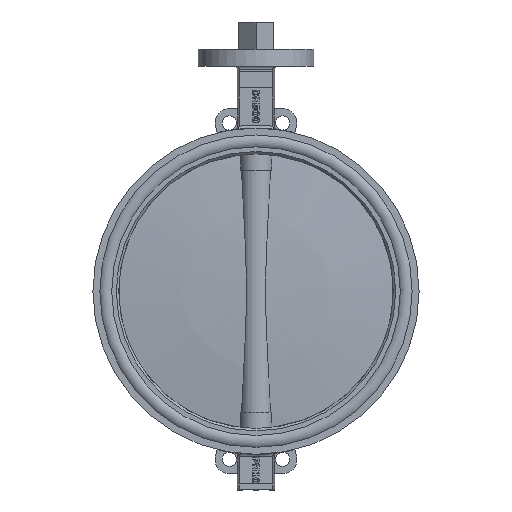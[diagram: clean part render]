
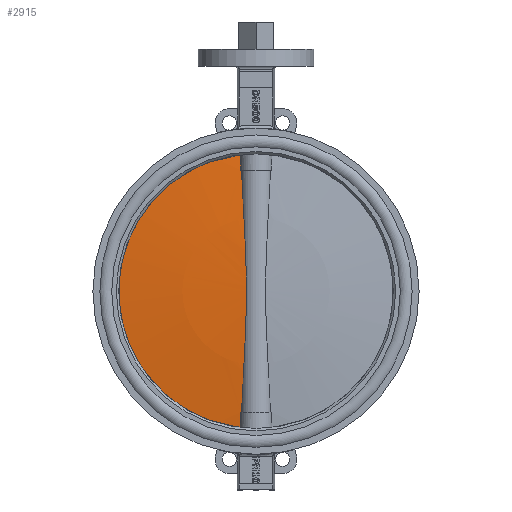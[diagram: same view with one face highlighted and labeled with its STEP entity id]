
A CAD part, left-side view. The second image highlights one B-rep face of the part: STEP entity #2915.
In plain terms, the highlighted spherical face has radius 2200.11 mm.
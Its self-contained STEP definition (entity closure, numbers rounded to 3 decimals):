
#2915=ADVANCED_FACE('',(#9275),#9277,.T.);
#9275=FACE_BOUND('',#9276,.T.);
#9276=EDGE_LOOP('',(#12264,#12265,#12266,#12267,#12268,#12269));
#9277=SPHERICAL_SURFACE('',#9278,2200.107);
#9278=AXIS2_PLACEMENT_3D('',#9279,#9280,#9281);
#9279=CARTESIAN_POINT('',(0.,-2177.107,0.));
#9280=DIRECTION('',(0.,-1.,0.));
#9281=DIRECTION('',(0.,0.,1.));
#12264=ORIENTED_EDGE('',*,*,#13447,.F.);
#12265=ORIENTED_EDGE('',*,*,#13459,.F.);
#12266=ORIENTED_EDGE('',*,*,#13460,.T.);
#12267=ORIENTED_EDGE('',*,*,#13461,.F.);
#12268=ORIENTED_EDGE('',*,*,#13430,.F.);
#12269=ORIENTED_EDGE('',*,*,#13458,.T.);
#13430=EDGE_CURVE('',#15207,#15208,#15209,.F.);
#13447=EDGE_CURVE('',#15240,#15225,#15242,.T.);
#13458=EDGE_CURVE('',#15207,#15225,#15257,.T.);
#13459=EDGE_CURVE('',#15258,#15240,#15259,.T.);
#13460=EDGE_CURVE('',#15258,#15260,#15261,.T.);
#13461=EDGE_CURVE('',#15208,#15260,#15262,.T.);
#15207=VERTEX_POINT('',#21501);
#15208=VERTEX_POINT('',#21502);
#15209=B_SPLINE_CURVE_WITH_KNOTS('',3,
(#21503,#21504,#21505,#21506,#21507,#21508,#21509,#21510,#21511,#21512,#21513),
.UNSPECIFIED.,.F.,.F.,
(4,1,1,1,1,1,1,1,4),
(0.,0.124,0.249,0.374,0.499,0.624,
0.749,0.874,1.),
.UNSPECIFIED.);
#15225=VERTEX_POINT('',#21641);
#15240=VERTEX_POINT('',#21765);
#15242=B_SPLINE_CURVE_WITH_KNOTS('',3,
(#21770,#21771,#21772,#21773,#21774,#21775,#21776,#21777,#21778,#21779,#21780),
.UNSPECIFIED.,.F.,.F.,
(4,1,1,1,1,1,1,1,4),
(0.,0.124,0.249,0.374,0.499,0.624,
0.749,0.874,1.),
.UNSPECIFIED.);
#15257=CIRCLE('',#21889,250.);
#15258=VERTEX_POINT('',#21893);
#15259=CIRCLE('',#21894,2189.043);
#15260=VERTEX_POINT('',#21898);
#15261=B_SPLINE_CURVE_WITH_KNOTS('',3,
(#21899,#21900,#21901,#21902,#21903,#21904,#21905,#21906,#21907,#21908,#21909,#21910,
#21911,#21912,#21913,#21914,#21915,#21916,#21917,#21918,#21919,#21920,#21921,#21922,
#21923,#21924,#21925,#21926,#21927,#21928,#21929,#21930,#21931,#21932,#21933,#21934),
.UNSPECIFIED.,.F.,.F.,
(4,1,1,1,1,1,1,1,1,1,1,1,1,1,1,1,1,1,1,1,1,1,1,1,1,1,1,1,1,1,1,1,1,4),
(0.,0.031,0.058,0.093,0.143,0.192,
0.231,0.262,0.291,0.318,0.338,
0.359,0.381,0.403,0.426,0.45,
0.475,0.5,0.5,0.526,0.553,
0.582,0.612,0.643,0.675,0.709,
0.743,0.777,0.813,0.849,0.886,
0.924,0.962,1.),
.UNSPECIFIED.);
#15262=CIRCLE('',#21935,2189.043);
#21501=CARTESIAN_POINT('',(28.865,8.75,248.328));
#21502=CARTESIAN_POINT('',(27.776,11.76,220.367));
#21503=CARTESIAN_POINT('',(27.776,11.76,220.367));
#21504=CARTESIAN_POINT('',(27.825,11.642,221.528));
#21505=CARTESIAN_POINT('',(27.924,11.405,223.85));
#21506=CARTESIAN_POINT('',(28.069,11.044,227.335));
#21507=CARTESIAN_POINT('',(28.21,10.677,230.824));
#21508=CARTESIAN_POINT('',(28.349,10.304,234.317));
#21509=CARTESIAN_POINT('',(28.484,9.925,237.815));
#21510=CARTESIAN_POINT('',(28.615,9.539,241.316));
#21511=CARTESIAN_POINT('',(28.743,9.148,244.821));
#21512=CARTESIAN_POINT('',(28.825,8.883,247.159));
#21513=CARTESIAN_POINT('',(28.865,8.75,248.328));
#21641=CARTESIAN_POINT('',(28.865,8.75,-248.328));
#21765=CARTESIAN_POINT('',(27.776,11.76,-220.367));
#21770=CARTESIAN_POINT('',(27.776,11.76,-220.367));
#21771=CARTESIAN_POINT('',(27.825,11.642,-221.528));
#21772=CARTESIAN_POINT('',(27.924,11.405,-223.85));
#21773=CARTESIAN_POINT('',(28.069,11.044,-227.335));
#21774=CARTESIAN_POINT('',(28.21,10.677,-230.824));
#21775=CARTESIAN_POINT('',(28.349,10.304,-234.317));
#21776=CARTESIAN_POINT('',(28.484,9.925,-237.815));
#21777=CARTESIAN_POINT('',(28.615,9.539,-241.316));
#21778=CARTESIAN_POINT('',(28.743,9.148,-244.821));
#21779=CARTESIAN_POINT('',(28.825,8.883,-247.159));
#21780=CARTESIAN_POINT('',(28.865,8.75,-248.328));
#21889=AXIS2_PLACEMENT_3D('',#21890,#21891,#21892);
#21890=CARTESIAN_POINT('',(0.,8.75,0.));
#21891=DIRECTION('',(0.,1.,0.));
#21892=DIRECTION('',(0.115,0.,0.993));
#21893=CARTESIAN_POINT('',(26.352,11.777,-220.367));
#21894=AXIS2_PLACEMENT_3D('',#21895,#21896,#21897);
#21895=CARTESIAN_POINT('',(0.,-2177.107,-220.367));
#21896=DIRECTION('',(0.,0.,-1.));
#21897=DIRECTION('',(0.012,1.,0.));
#21898=CARTESIAN_POINT('',(26.352,11.777,220.367));
#21899=CARTESIAN_POINT('',(26.352,11.777,-220.367));
#21900=CARTESIAN_POINT('',(26.149,12.23,-215.892));
#21901=CARTESIAN_POINT('',(25.753,13.057,-207.464));
#21902=CARTESIAN_POINT('',(25.074,14.321,-193.774));
#21903=CARTESIAN_POINT('',(24.223,15.732,-177.368));
#21904=CARTESIAN_POINT('',(23.16,17.264,-157.582));
#21905=CARTESIAN_POINT('',(22.071,18.623,-137.413));
#21906=CARTESIAN_POINT('',(21.155,19.647,-119.893));
#21907=CARTESIAN_POINT('',(20.436,20.39,-105.449));
#21908=CARTESIAN_POINT('',(19.839,20.97,-92.671));
#21909=CARTESIAN_POINT('',(19.353,21.417,-81.399));
#21910=CARTESIAN_POINT('',(18.955,21.769,-71.296));
#21911=CARTESIAN_POINT('',(18.621,22.055,-61.972));
#21912=CARTESIAN_POINT('',(18.32,22.306,-52.44));
#21913=CARTESIAN_POINT('',(18.054,22.521,-42.606));
#21914=CARTESIAN_POINT('',(17.833,22.696,-32.475));
#21915=CARTESIAN_POINT('',(17.663,22.828,-21.953));
#21916=CARTESIAN_POINT('',(17.556,22.911,-11.14));
#21917=CARTESIAN_POINT('',(17.531,22.93,-3.774));
#21918=CARTESIAN_POINT('',(17.53,22.93,3.786));
#21919=CARTESIAN_POINT('',(17.558,22.909,11.68));
#21920=CARTESIAN_POINT('',(17.684,22.812,23.787));
#21921=CARTESIAN_POINT('',(17.907,22.638,36.416));
#21922=CARTESIAN_POINT('',(18.232,22.378,49.619));
#21923=CARTESIAN_POINT('',(18.659,22.025,63.301));
#21924=CARTESIAN_POINT('',(19.19,21.565,77.558));
#21925=CARTESIAN_POINT('',(19.814,20.995,92.197));
#21926=CARTESIAN_POINT('',(20.52,20.308,107.219));
#21927=CARTESIAN_POINT('',(21.291,19.501,122.529));
#21928=CARTESIAN_POINT('',(22.117,18.561,138.227));
#21929=CARTESIAN_POINT('',(22.977,17.488,154.213));
#21930=CARTESIAN_POINT('',(23.854,16.275,170.49));
#21931=CARTESIAN_POINT('',(24.725,14.924,186.959));
#21932=CARTESIAN_POINT('',(25.569,13.43,203.619));
#21933=CARTESIAN_POINT('',(26.098,12.344,214.769));
#21934=CARTESIAN_POINT('',(26.352,11.777,220.367));
#21935=AXIS2_PLACEMENT_3D('',#21936,#21937,#21938);
#21936=CARTESIAN_POINT('',(0.,-2177.107,220.367));
#21937=DIRECTION('',(0.,0.,1.));
#21938=DIRECTION('',(0.013,1.,0.));
